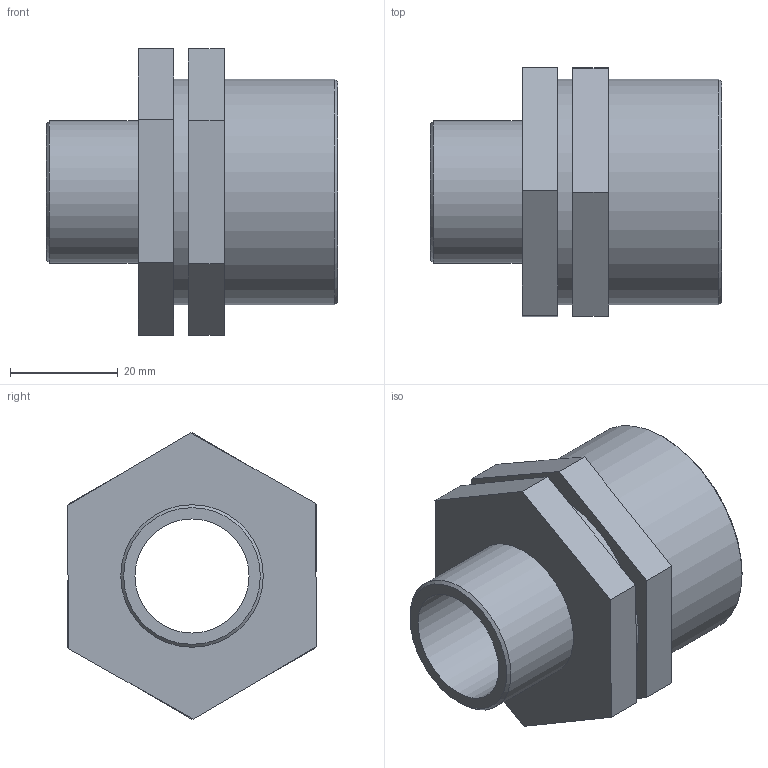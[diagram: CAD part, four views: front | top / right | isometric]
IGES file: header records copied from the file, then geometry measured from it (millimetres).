
Global section: file name: 050605013007_0506050130070A.ipt; native system: Autodesk Inventor 2015; preprocessor: unknown; author: KIM; date: 20170618.093227; units: millimetre
Bounding box: 54 x 46.25 x 53.12 mm (x, y, z)
Volume: 31263.7 mm3; surface area: 15219.8 mm2
Topology: 1 solids, 1 shells, 26 faces, 59 edges, 40 vertices
Faces by surface type: plane 19, cylinder 3, cone 2, revolution 2
Full cylindrical faces by diameter (mm): 26.441 x1, 41.91 x2
